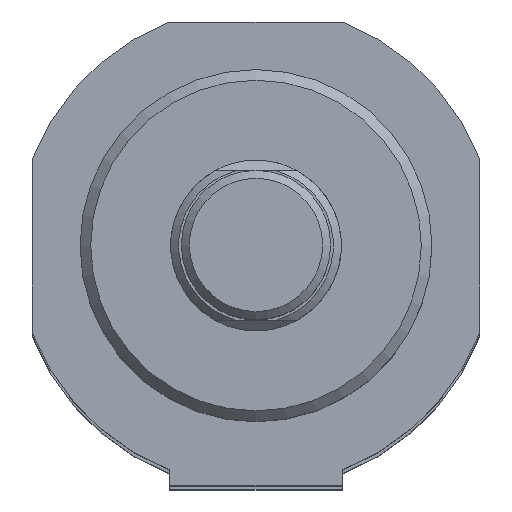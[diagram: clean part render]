
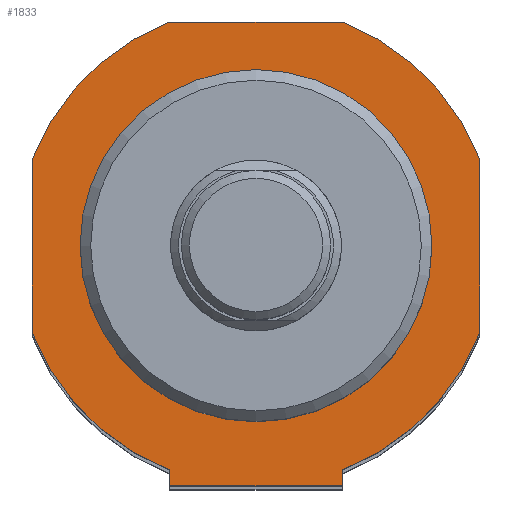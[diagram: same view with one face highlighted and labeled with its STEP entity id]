
A CAD part, top view. The second image highlights one B-rep face of the part: STEP entity #1833.
In plain terms, the highlighted planar face has unit normal (0, 0, 1).
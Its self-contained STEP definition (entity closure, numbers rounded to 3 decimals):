
#898=CARTESIAN_POINT('',(8.078,-22.5,249.));
#899=VERTEX_POINT('',#898);
#900=CARTESIAN_POINT('',(-8.078,-22.5,249.));
#901=VERTEX_POINT('',#900);
#902=CARTESIAN_POINT('',(8.078,-22.5,249.));
#903=DIRECTION('',(-1.0,0.0,0.0));
#904=VECTOR('',#903,16.155);
#905=LINE('',#902,#904);
#906=EDGE_CURVE('',#899,#901,#905,.T.);
#1054=CARTESIAN_POINT('',(-8.078,-21.,249.));
#1055=VERTEX_POINT('',#1054);
#1069=CARTESIAN_POINT('',(-8.078,-21.,249.));
#1070=DIRECTION('',(0.0,-1.0,0.0));
#1071=VECTOR('',#1070,1.5);
#1072=LINE('',#1069,#1071);
#1073=EDGE_CURVE('',#1055,#901,#1072,.T.);
#1085=CARTESIAN_POINT('',(8.078,-21.,249.));
#1086=VERTEX_POINT('',#1085);
#1093=CARTESIAN_POINT('',(8.078,-21.,249.));
#1094=DIRECTION('',(0.0,-1.0,0.0));
#1095=VECTOR('',#1094,1.5);
#1096=LINE('',#1093,#1095);
#1097=EDGE_CURVE('',#1086,#899,#1096,.T.);
#1561=CARTESIAN_POINT('',(16.5,0.,249.));
#1562=VERTEX_POINT('',#1561);
#1563=CARTESIAN_POINT('',(0.,0.,249.));
#1564=DIRECTION('',(0.0,0.0,-1.0));
#1565=DIRECTION('',(-1.0,0.0,0.0));
#1566=AXIS2_PLACEMENT_3D('',#1563,#1564,#1565);
#1567=CIRCLE('',#1566,16.5);
#1568=EDGE_CURVE('',#1562,#1562,#1567,.T.);
#1653=CARTESIAN_POINT('',(-8.078,21.,249.));
#1654=VERTEX_POINT('',#1653);
#1655=CARTESIAN_POINT('',(8.078,21.,249.));
#1656=VERTEX_POINT('',#1655);
#1657=CARTESIAN_POINT('',(-8.078,21.,249.));
#1658=DIRECTION('',(1.0,0.0,0.0));
#1659=VECTOR('',#1658,16.155);
#1660=LINE('',#1657,#1659);
#1661=EDGE_CURVE('',#1654,#1656,#1660,.T.);
#1684=CARTESIAN_POINT('',(21.,8.078,249.));
#1685=VERTEX_POINT('',#1684);
#1686=CARTESIAN_POINT('',(0.,0.,249.));
#1687=DIRECTION('',(0.,0.,-1.0));
#1688=DIRECTION('',(0.933,0.359,0.));
#1689=AXIS2_PLACEMENT_3D('',#1686,#1687,#1688);
#1690=CIRCLE('',#1689,22.5);
#1691=EDGE_CURVE('',#1656,#1685,#1690,.T.);
#1709=CARTESIAN_POINT('',(21.,-8.078,249.));
#1710=VERTEX_POINT('',#1709);
#1711=CARTESIAN_POINT('',(21.,8.078,249.));
#1712=DIRECTION('',(0.0,-1.0,0.0));
#1713=VECTOR('',#1712,16.155);
#1714=LINE('',#1711,#1713);
#1715=EDGE_CURVE('',#1685,#1710,#1714,.T.);
#1733=CARTESIAN_POINT('',(0.,0.,249.));
#1734=DIRECTION('',(0.,0.,-1.));
#1735=DIRECTION('',(0.359,-0.933,0.));
#1736=AXIS2_PLACEMENT_3D('',#1733,#1734,#1735);
#1737=CIRCLE('',#1736,22.5);
#1738=EDGE_CURVE('',#1710,#1086,#1737,.T.);
#1751=CARTESIAN_POINT('',(-21.,-8.078,249.));
#1752=VERTEX_POINT('',#1751);
#1753=CARTESIAN_POINT('',(0.,0.,249.));
#1754=DIRECTION('',(0.,0.,-1.0));
#1755=DIRECTION('',(-0.933,-0.359,0.));
#1756=AXIS2_PLACEMENT_3D('',#1753,#1754,#1755);
#1757=CIRCLE('',#1756,22.5);
#1758=EDGE_CURVE('',#1055,#1752,#1757,.T.);
#1776=CARTESIAN_POINT('',(-21.,8.078,249.));
#1777=VERTEX_POINT('',#1776);
#1778=CARTESIAN_POINT('',(-21.,-8.078,249.));
#1779=DIRECTION('',(0.0,1.0,0.0));
#1780=VECTOR('',#1779,16.155);
#1781=LINE('',#1778,#1780);
#1782=EDGE_CURVE('',#1752,#1777,#1781,.T.);
#1800=CARTESIAN_POINT('',(0.,0.,249.));
#1801=DIRECTION('',(0.,0.,-1.));
#1802=DIRECTION('',(-0.359,0.933,0.));
#1803=AXIS2_PLACEMENT_3D('',#1800,#1801,#1802);
#1804=CIRCLE('',#1803,22.5);
#1805=EDGE_CURVE('',#1777,#1654,#1804,.T.);
#1813=CARTESIAN_POINT('',(0.,0.0,249.));
#1814=DIRECTION('',(0.0,0.0,1.0));
#1815=DIRECTION('',(1.0,0.0,0.0));
#1816=AXIS2_PLACEMENT_3D('',#1813,#1814,#1815);
#1817=PLANE('',#1816);
#1818=ORIENTED_EDGE('',*,*,#1661,.F.);
#1819=ORIENTED_EDGE('',*,*,#1805,.F.);
#1820=ORIENTED_EDGE('',*,*,#1782,.F.);
#1821=ORIENTED_EDGE('',*,*,#1758,.F.);
#1822=ORIENTED_EDGE('',*,*,#1073,.T.);
#1823=ORIENTED_EDGE('',*,*,#906,.F.);
#1824=ORIENTED_EDGE('',*,*,#1097,.F.);
#1825=ORIENTED_EDGE('',*,*,#1738,.F.);
#1826=ORIENTED_EDGE('',*,*,#1715,.F.);
#1827=ORIENTED_EDGE('',*,*,#1691,.F.);
#1828=EDGE_LOOP('',(#1818,#1819,#1820,#1821,#1822,#1823,#1824,#1825,#1826,#1827));
#1829=FACE_OUTER_BOUND('',#1828,.T.);
#1830=ORIENTED_EDGE('',*,*,#1568,.T.);
#1831=EDGE_LOOP('',(#1830));
#1832=FACE_BOUND('',#1831,.T.);
#1833=ADVANCED_FACE('',(#1829,#1832),#1817,.T.);
